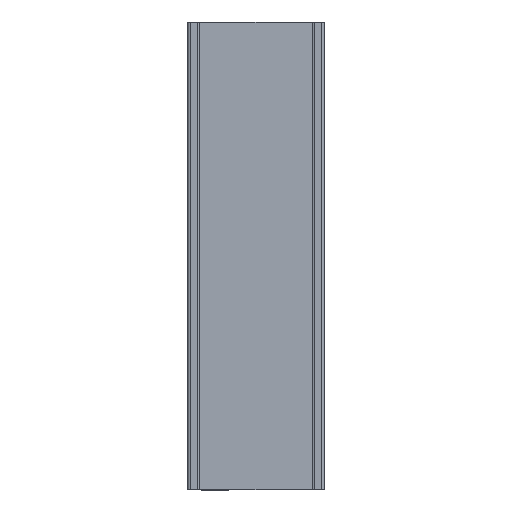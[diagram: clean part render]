
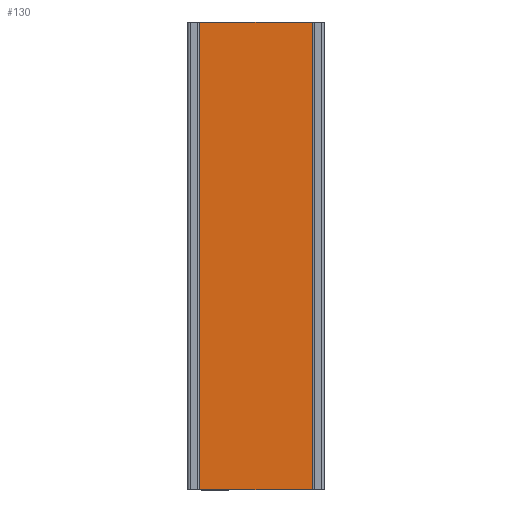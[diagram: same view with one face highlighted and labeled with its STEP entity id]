
A CAD part, top view. The second image highlights one B-rep face of the part: STEP entity #130.
In plain terms, the highlighted planar face has unit normal (0, 0, 1).
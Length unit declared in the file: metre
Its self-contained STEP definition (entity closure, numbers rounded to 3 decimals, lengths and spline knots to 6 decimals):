
#130=ADVANCED_FACE('',(#338),#339,.T.);
#338=FACE_OUTER_BOUND('',#654,.T.);
#339=PLANE('',#655);
#654=EDGE_LOOP('',(#1020,#1021,#1022,#1023));
#655=AXIS2_PLACEMENT_3D('',#1024,#1025,#1026);
#1020=ORIENTED_EDGE('',*,*,#1672,.F.);
#1021=ORIENTED_EDGE('',*,*,#1675,.T.);
#1022=ORIENTED_EDGE('',*,*,#1668,.F.);
#1023=ORIENTED_EDGE('',*,*,#1676,.T.);
#1024=CARTESIAN_POINT('',(0.006,-0.025,0.01));
#1025=DIRECTION('',(0.0,0.0,1.0));
#1026=DIRECTION('',(1.0,0.0,0.0));
#1668=EDGE_CURVE('',#1894,#1896,#1897,.T.);
#1672=EDGE_CURVE('',#1900,#1902,#1903,.T.);
#1675=EDGE_CURVE('',#1900,#1896,#1906,.T.);
#1676=EDGE_CURVE('',#1894,#1902,#1907,.T.);
#1894=VERTEX_POINT('',#2193);
#1896=VERTEX_POINT('',#2196);
#1897=LINE('',#2197,#2198);
#1900=VERTEX_POINT('',#2202);
#1902=VERTEX_POINT('',#2205);
#1903=LINE('',#2206,#2207);
#1906=LINE('',#2211,#2212);
#1907=LINE('',#2213,#2214);
#2193=CARTESIAN_POINT('',(-0.006,-0.025,0.01));
#2196=CARTESIAN_POINT('',(-0.006,0.025,0.01));
#2197=CARTESIAN_POINT('',(-0.006,0.,0.01));
#2198=VECTOR('',#2584,1.0);
#2202=CARTESIAN_POINT('',(0.006,0.025,0.01));
#2205=CARTESIAN_POINT('',(0.006,-0.025,0.01));
#2206=CARTESIAN_POINT('',(0.006,0.,0.01));
#2207=VECTOR('',#2587,1.0);
#2211=CARTESIAN_POINT('',(0.048296,0.025,0.01));
#2212=VECTOR('',#2589,1.0);
#2213=CARTESIAN_POINT('',(-0.032504,-0.025,0.01));
#2214=VECTOR('',#2590,1.0);
#2584=DIRECTION('',(0.,1.0,0.0));
#2587=DIRECTION('',(0.,-1.0,0.0));
#2589=DIRECTION('',(-1.0,0.0,0.0));
#2590=DIRECTION('',(1.0,-0.0,0.0));
